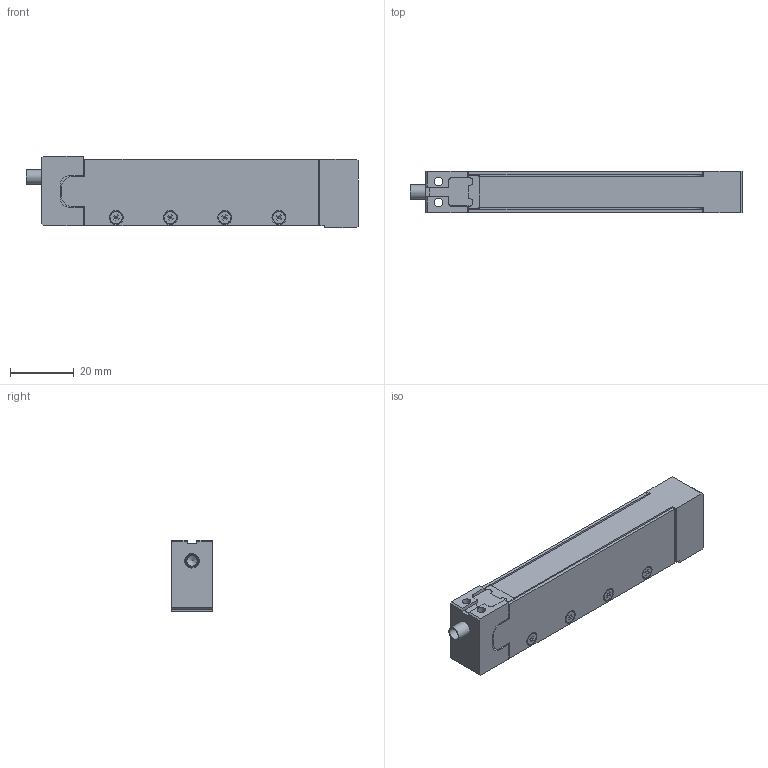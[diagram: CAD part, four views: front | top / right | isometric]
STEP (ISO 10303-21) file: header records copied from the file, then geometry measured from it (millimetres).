
FILE_DESCRIPTION (( 'STEP AP203' ), '1' );
FILE_NAME ('00000135.STEP', '2022-12-01T07:39:54', ( '' ), ( '' ), 'SwSTEP 2.0', 'SolidWorks 2021', '' );
FILE_SCHEMA (( 'CONFIG_CONTROL_DESIGN' ));
Length unit declared in the file: millimetre
Products named in the file (7): _ISO 7046-1 - M2 x 5 - Z --- 5N; 00000135; PPO000034_Abdeckung 1000 痠 - 1; PPO000030_Grundkörper 1000 µm_Erodierteil; PPO000033_Abdeckung 1000 痠; PPO000016_Kabelhülse; PPO000017_DMS Abdeckblech
Assembly tree (13 placements, depth 2):
  00000135
    PPO000030_Grundkörper 1000 µm_Erodierteil
    PPO000033_Abdeckung 1000 痠
    PPO000034_Abdeckung 1000 痠 - 1
    _ISO 7046-1 - M2 x 5 - Z --- 5N  x8
    PPO000016_Kabelhülse
    PPO000017_DMS Abdeckblech
Bounding box: 103.97 x 13 x 22.5 mm (x, y, z)
Volume: 25278.1 mm3; surface area: 15728 mm2
Topology: 13 solids, 13 shells, 446 faces, 1080 edges, 660 vertices
Faces by surface type: plane 269, cone 104, cylinder 65, torus 8
Full cylindrical faces by diameter (mm): 1.6 x8, 2 x8, 2.05 x3, 2.6 x8, 2.7 x2, 3 x1, 3.3 x1, 3.8 x9, 4.5 x2, 5.5 x2, 6 x1
Entity records: 6777 total; most frequent: CARTESIAN_POINT 1082, DIRECTION 1010, ORIENTED_EDGE 900, EDGE_CURVE 450, AXIS2_PLACEMENT_3D 356, VERTEX_POINT 320, LINE 298, VECTOR 298
